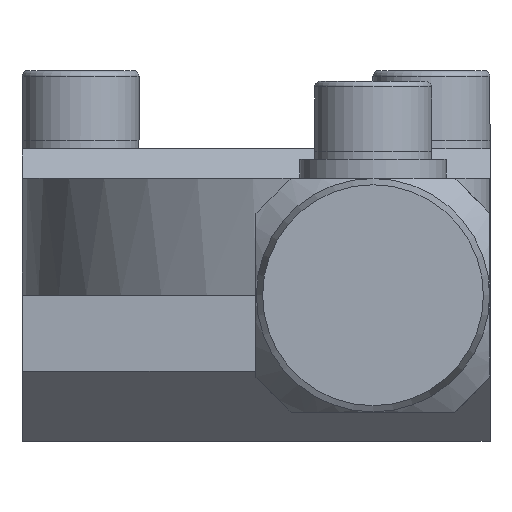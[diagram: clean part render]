
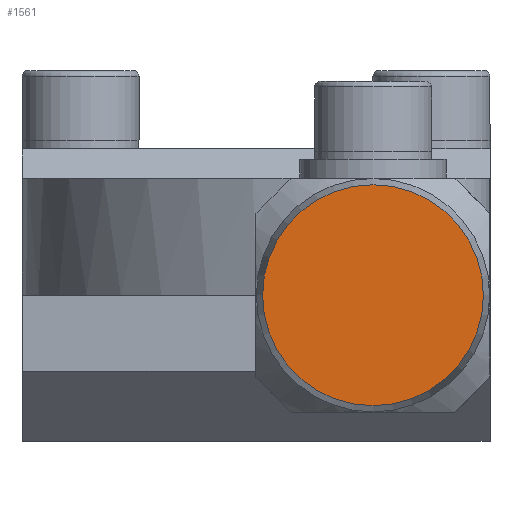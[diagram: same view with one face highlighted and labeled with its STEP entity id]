
A CAD part, left-side view. The second image highlights one B-rep face of the part: STEP entity #1561.
In plain terms, the highlighted planar face has unit normal (-1, 0, 0).
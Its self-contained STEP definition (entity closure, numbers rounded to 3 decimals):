
#354=PLANE('',#1713);
#469=FACE_OUTER_BOUND('',#582,.T.);
#582=EDGE_LOOP('',(#1318));
#644=CIRCLE('',#1714,9.439);
#771=VERTEX_POINT('',#2522);
#958=EDGE_CURVE('',#771,#771,#644,.T.);
#1318=ORIENTED_EDGE('',*,*,#958,.F.);
#1561=ADVANCED_FACE('',(#469),#354,.F.);
#1713=AXIS2_PLACEMENT_3D('',#2521,#2091,#2092);
#1714=AXIS2_PLACEMENT_3D('',#2523,#2093,#2094);
#2091=DIRECTION('center_axis',(1.,0.,0.));
#2092=DIRECTION('ref_axis',(0.,0.,-1.));
#2093=DIRECTION('center_axis',(1.,0.,0.));
#2094=DIRECTION('ref_axis',(0.,-1.,0.));
#2521=CARTESIAN_POINT('Origin',(0.,0.,0.));
#2522=CARTESIAN_POINT('',(0.,9.439,0.));
#2523=CARTESIAN_POINT('Origin',(0.,0.,0.));
